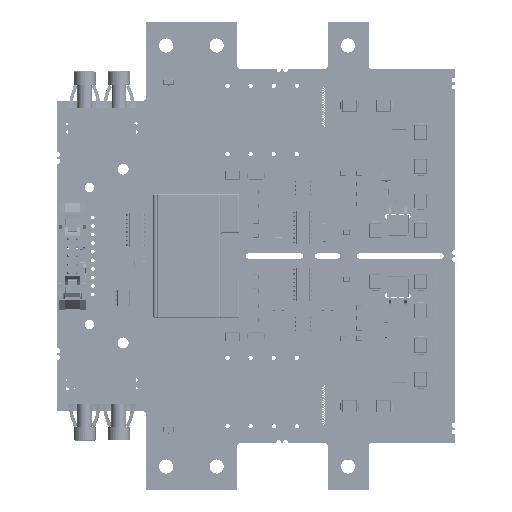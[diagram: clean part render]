
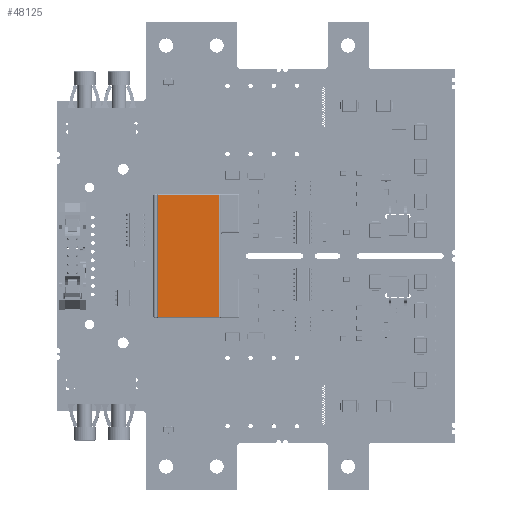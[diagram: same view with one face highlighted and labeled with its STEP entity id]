
A CAD part, top view. The second image highlights one B-rep face of the part: STEP entity #48125.
In plain terms, the highlighted planar face has unit normal (0, 0, 1) as drawn and (0, 1, 0) by its records, which use the part's own axes.
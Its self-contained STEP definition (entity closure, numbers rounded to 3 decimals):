
#11394=VERTEX_POINT('',#70407);
#11402=VERTEX_POINT('',#70436);
#11413=VERTEX_POINT('',#70475);
#11415=VERTEX_POINT('',#70484);
#15592=VECTOR('',#57608,1.);
#15594=VECTOR('',#57620,1.);
#15610=VECTOR('',#57680,1.);
#15611=VECTOR('',#57683,1.);
#20442=LINE('',#70471,#15592);
#20444=LINE('',#70481,#15594);
#20460=LINE('',#70532,#15610);
#20461=LINE('',#70534,#15611);
#25771=EDGE_CURVE('',#11394,#11402,#20442,.T.);
#25776=EDGE_CURVE('',#11413,#11394,#20444,.T.);
#25803=EDGE_CURVE('',#11402,#11415,#20460,.T.);
#25804=EDGE_CURVE('',#11415,#11413,#20461,.T.);
#34009=ORIENTED_EDGE('',*,*,#25771,.F.);
#34010=ORIENTED_EDGE('',*,*,#25776,.F.);
#34011=ORIENTED_EDGE('',*,*,#25804,.F.);
#34012=ORIENTED_EDGE('',*,*,#25803,.F.);
#43083=EDGE_LOOP('',(#34009,#34010,#34011,#34012));
#45816=FACE_BOUND('',#43083,.T.);
#48125=ADVANCED_FACE('',(#45816),#81808,.T.);
#50859=AXIS2_PLACEMENT_3D('',#70550,#57698,$);
#57608=DIRECTION('',(-1.,0.,0.));
#57620=DIRECTION('',(0.,0.,1.));
#57680=DIRECTION('',(0.,0.,-1.));
#57683=DIRECTION('',(1.,0.,0.));
#57698=DIRECTION('',(0.,1.,0.));
#70407=CARTESIAN_POINT('',(36.5,13.6,-0.5));
#70436=CARTESIAN_POINT('',(0.5,13.6,-0.5));
#70471=CARTESIAN_POINT('',(18.5,13.6,-0.5));
#70475=CARTESIAN_POINT('',(36.5,13.6,-18.507));
#70481=CARTESIAN_POINT('',(36.5,13.6,-10.));
#70484=CARTESIAN_POINT('',(0.5,13.6,-18.507));
#70532=CARTESIAN_POINT('',(0.5,13.6,-10.));
#70534=CARTESIAN_POINT('',(18.501,13.6,-18.507));
#70550=CARTESIAN_POINT('',(18.5,13.6,-10.));
#81808=PLANE('',#50859);
